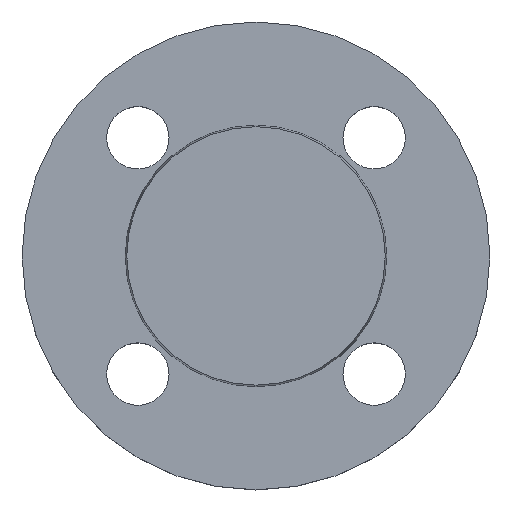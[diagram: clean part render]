
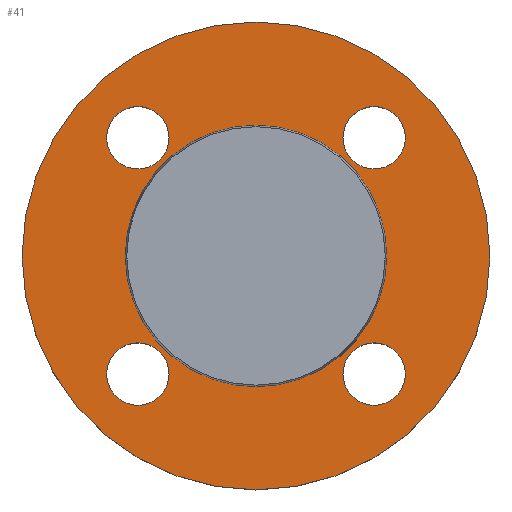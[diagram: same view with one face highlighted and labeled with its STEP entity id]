
A CAD part, top view. The second image highlights one B-rep face of the part: STEP entity #41.
In plain terms, the highlighted planar face has unit normal (0, 0, 1).
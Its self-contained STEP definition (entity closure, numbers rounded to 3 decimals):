
#3 = AXIS2_PLACEMENT_3D ( 'NONE', #254, #255, #257 ) ;
#9 = EDGE_CURVE ( 'NONE', #328, #317, #237, .T. ) ;
#16 = ORIENTED_EDGE ( 'NONE', *, *, #298, .T. ) ;
#19 = CIRCLE ( 'NONE', #220, 7. ) ;
#26 = ORIENTED_EDGE ( 'NONE', *, *, #171, .T. ) ;
#29 = AXIS2_PLACEMENT_3D ( 'NONE', #277, #278, #280 ) ;
#32 = ORIENTED_EDGE ( 'NONE', *, *, #575, .F. ) ;
#33 = AXIS2_PLACEMENT_3D ( 'NONE', #435, #436, #438 ) ;
#34 = ORIENTED_EDGE ( 'NONE', *, *, #9, .F. ) ;
#39 = AXIS2_PLACEMENT_3D ( 'NONE', #544, #545, #546 ) ;
#41 = ADVANCED_FACE ( 'NONE', ( #236, #238, #239, #240, #242, #243 ), #245, .T. ) ;
#48 = CIRCLE ( 'NONE', #39, 7. ) ;
#60 = AXIS2_PLACEMENT_3D ( 'NONE', #598, #599, #600 ) ;
#70 = CIRCLE ( 'NONE', #60, 7. ) ;
#78 = EDGE_CURVE ( 'NONE', #115, #126, #642, .T. ) ;
#81 = EDGE_CURVE ( 'NONE', #326, #175, #197, .T. ) ;
#84 = AXIS2_PLACEMENT_3D ( 'NONE', #196, #201, #204 ) ;
#85 = AXIS2_PLACEMENT_3D ( 'NONE', #247, #248, #249 ) ;
#115 = VERTEX_POINT ( 'NONE', #258 ) ;
#121 = VERTEX_POINT ( 'NONE', #261 ) ;
#125 = EDGE_CURVE ( 'NONE', #315, #388, #193, .T. ) ;
#126 = VERTEX_POINT ( 'NONE', #273 ) ;
#128 = EDGE_CURVE ( 'NONE', #126, #115, #244, .T. ) ;
#140 = EDGE_LOOP ( 'NONE', ( #16, #26 ) ) ;
#154 = EDGE_LOOP ( 'NONE', ( #390, #391 ) ) ;
#165 = VERTEX_POINT ( 'NONE', #300 ) ;
#167 = AXIS2_PLACEMENT_3D ( 'NONE', #587, #588, #589 ) ;
#168 = CIRCLE ( 'NONE', #167, 52.5 ) ;
#171 = EDGE_CURVE ( 'NONE', #186, #176, #310, .T. ) ;
#175 = VERTEX_POINT ( 'NONE', #395 ) ;
#176 = VERTEX_POINT ( 'NONE', #396 ) ;
#186 = VERTEX_POINT ( 'NONE', #404 ) ;
#193 = CIRCLE ( 'NONE', #270, 7. ) ;
#196 = CARTESIAN_POINT ( 'NONE',  ( 0., 0., -2. ) ) ;
#197 = CIRCLE ( 'NONE', #3, 7. ) ;
#199 = AXIS2_PLACEMENT_3D ( 'NONE', #251, #252, #253 ) ;
#201 = DIRECTION ( 'NONE',  ( 0., 0., -1. ) ) ;
#204 = DIRECTION ( 'NONE',  ( -1., 0., 0. ) ) ;
#209 = CIRCLE ( 'NONE', #269, 7. ) ;
#220 = AXIS2_PLACEMENT_3D ( 'NONE', #487, #488, #489 ) ;
#229 = CIRCLE ( 'NONE', #33, 29.353 ) ;
#236 = FACE_BOUND ( 'NONE', #313, .T. ) ;
#237 = CIRCLE ( 'NONE', #84, 52.5 ) ;
#238 = FACE_BOUND ( 'NONE', #562, .T. ) ;
#239 = FACE_BOUND ( 'NONE', #318, .T. ) ;
#240 = FACE_BOUND ( 'NONE', #154, .T. ) ;
#242 = FACE_BOUND ( 'NONE', #140, .T. ) ;
#243 = FACE_OUTER_BOUND ( 'NONE', #322, .T. ) ;
#244 = CIRCLE ( 'NONE', #29, 7. ) ;
#245 = PLANE ( 'NONE',  #85 ) ;
#247 = CARTESIAN_POINT ( 'NONE',  ( 29.353, 0., -2. ) ) ;
#248 = DIRECTION ( 'NONE',  ( 0., 0., 1. ) ) ;
#249 = DIRECTION ( 'NONE',  ( 1., 0., 0. ) ) ;
#251 = CARTESIAN_POINT ( 'NONE',  ( 26.517, 26.517, -2. ) ) ;
#252 = DIRECTION ( 'NONE',  ( 0., 0., -1. ) ) ;
#253 = DIRECTION ( 'NONE',  ( 1., 0., 0. ) ) ;
#254 = CARTESIAN_POINT ( 'NONE',  ( -26.517, 26.517, -2. ) ) ;
#255 = DIRECTION ( 'NONE',  ( 0., 0., -1. ) ) ;
#257 = DIRECTION ( 'NONE',  ( 1., 0., 0. ) ) ;
#258 = CARTESIAN_POINT ( 'NONE',  ( 33.517, 26.517, -2. ) ) ;
#261 = CARTESIAN_POINT ( 'NONE',  ( 33.517, -26.517, -2. ) ) ;
#265 = CARTESIAN_POINT ( 'NONE',  ( -26.517, -26.517, -2. ) ) ;
#266 = DIRECTION ( 'NONE',  ( 0., 0., -1. ) ) ;
#269 = AXIS2_PLACEMENT_3D ( 'NONE', #465, #466, #467 ) ;
#270 = AXIS2_PLACEMENT_3D ( 'NONE', #265, #266, #271 ) ;
#271 = DIRECTION ( 'NONE',  ( 1., 0., 0. ) ) ;
#273 = CARTESIAN_POINT ( 'NONE',  ( 19.517, 26.517, -2. ) ) ;
#277 = CARTESIAN_POINT ( 'NONE',  ( 26.517, 26.517, -2. ) ) ;
#278 = DIRECTION ( 'NONE',  ( 0., 0., -1. ) ) ;
#280 = DIRECTION ( 'NONE',  ( 1., 0., 0. ) ) ;
#298 = EDGE_CURVE ( 'NONE', #176, #186, #229, .T. ) ;
#300 = CARTESIAN_POINT ( 'NONE',  ( 19.517, -26.517, -2. ) ) ;
#301 = CARTESIAN_POINT ( 'NONE',  ( 0., 0., -2. ) ) ;
#305 = DIRECTION ( 'NONE',  ( 0., 0., -1. ) ) ;
#310 = CIRCLE ( 'NONE', #335, 29.353 ) ;
#313 = EDGE_LOOP ( 'NONE', ( #381, #382 ) ) ;
#315 = VERTEX_POINT ( 'NONE', #451 ) ;
#317 = VERTEX_POINT ( 'NONE', #454 ) ;
#318 = EDGE_LOOP ( 'NONE', ( #386, #389 ) ) ;
#322 = EDGE_LOOP ( 'NONE', ( #32, #34 ) ) ;
#326 = VERTEX_POINT ( 'NONE', #460 ) ;
#328 = VERTEX_POINT ( 'NONE', #463 ) ;
#335 = AXIS2_PLACEMENT_3D ( 'NONE', #301, #305, #392 ) ;
#345 = EDGE_CURVE ( 'NONE', #165, #121, #209, .T. ) ;
#381 = ORIENTED_EDGE ( 'NONE', *, *, #502, .T. ) ;
#382 = ORIENTED_EDGE ( 'NONE', *, *, #345, .T. ) ;
#383 = ORIENTED_EDGE ( 'NONE', *, *, #125, .T. ) ;
#385 = ORIENTED_EDGE ( 'NONE', *, *, #400, .T. ) ;
#386 = ORIENTED_EDGE ( 'NONE', *, *, #605, .T. ) ;
#388 = VERTEX_POINT ( 'NONE', #482 ) ;
#389 = ORIENTED_EDGE ( 'NONE', *, *, #81, .T. ) ;
#390 = ORIENTED_EDGE ( 'NONE', *, *, #78, .T. ) ;
#391 = ORIENTED_EDGE ( 'NONE', *, *, #128, .T. ) ;
#392 = DIRECTION ( 'NONE',  ( -1., 0., 0. ) ) ;
#395 = CARTESIAN_POINT ( 'NONE',  ( -19.517, 26.517, -2. ) ) ;
#396 = CARTESIAN_POINT ( 'NONE',  ( -29.353, 0., -2. ) ) ;
#400 = EDGE_CURVE ( 'NONE', #388, #315, #19, .T. ) ;
#404 = CARTESIAN_POINT ( 'NONE',  ( 29.353, 0., -2. ) ) ;
#435 = CARTESIAN_POINT ( 'NONE',  ( 0., 0., -2. ) ) ;
#436 = DIRECTION ( 'NONE',  ( 0., 0., -1. ) ) ;
#438 = DIRECTION ( 'NONE',  ( -1., 0., 0. ) ) ;
#451 = CARTESIAN_POINT ( 'NONE',  ( -19.517, -26.517, -2. ) ) ;
#454 = CARTESIAN_POINT ( 'NONE',  ( 52.5, 0., -2. ) ) ;
#460 = CARTESIAN_POINT ( 'NONE',  ( -33.517, 26.517, -2. ) ) ;
#463 = CARTESIAN_POINT ( 'NONE',  ( -52.5, 0., -2. ) ) ;
#465 = CARTESIAN_POINT ( 'NONE',  ( 26.517, -26.517, -2. ) ) ;
#466 = DIRECTION ( 'NONE',  ( 0., 0., -1. ) ) ;
#467 = DIRECTION ( 'NONE',  ( 1., 0., 0. ) ) ;
#482 = CARTESIAN_POINT ( 'NONE',  ( -33.517, -26.517, -2. ) ) ;
#487 = CARTESIAN_POINT ( 'NONE',  ( -26.517, -26.517, -2. ) ) ;
#488 = DIRECTION ( 'NONE',  ( 0., 0., -1. ) ) ;
#489 = DIRECTION ( 'NONE',  ( 1., 0., 0. ) ) ;
#502 = EDGE_CURVE ( 'NONE', #121, #165, #48, .T. ) ;
#544 = CARTESIAN_POINT ( 'NONE',  ( 26.517, -26.517, -2. ) ) ;
#545 = DIRECTION ( 'NONE',  ( 0., 0., -1. ) ) ;
#546 = DIRECTION ( 'NONE',  ( 1., 0., 0. ) ) ;
#562 = EDGE_LOOP ( 'NONE', ( #383, #385 ) ) ;
#575 = EDGE_CURVE ( 'NONE', #317, #328, #168, .T. ) ;
#587 = CARTESIAN_POINT ( 'NONE',  ( 0., 0., -2. ) ) ;
#588 = DIRECTION ( 'NONE',  ( 0., 0., -1. ) ) ;
#589 = DIRECTION ( 'NONE',  ( -1., 0., 0. ) ) ;
#598 = CARTESIAN_POINT ( 'NONE',  ( -26.517, 26.517, -2. ) ) ;
#599 = DIRECTION ( 'NONE',  ( 0., 0., -1. ) ) ;
#600 = DIRECTION ( 'NONE',  ( 1., 0., 0. ) ) ;
#605 = EDGE_CURVE ( 'NONE', #175, #326, #70, .T. ) ;
#642 = CIRCLE ( 'NONE', #199, 7. ) ;
